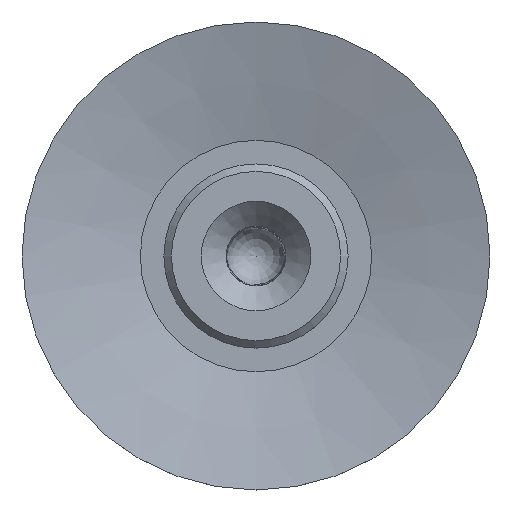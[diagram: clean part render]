
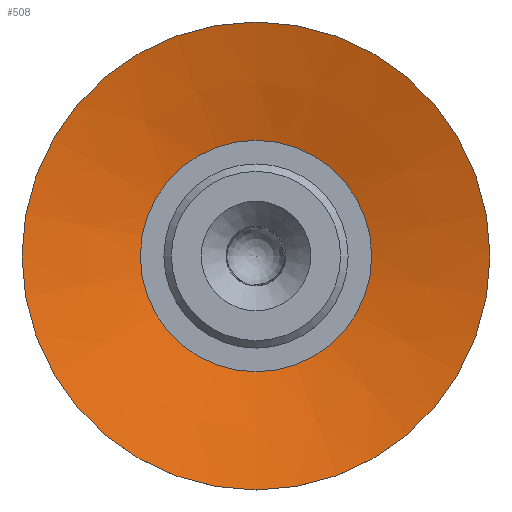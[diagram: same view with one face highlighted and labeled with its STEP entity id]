
A CAD part, top view. The second image highlights one B-rep face of the part: STEP entity #508.
In plain terms, the highlighted conical face has half-angle 75 degrees and reference radius 47 mm.
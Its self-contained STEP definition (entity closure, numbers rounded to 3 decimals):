
#508=ADVANCED_FACE('',(#1137,#1138),#1139,.F.);
#1137=FACE_BOUND('',#2647,.T.);
#1138=FACE_OUTER_BOUND('',#2648,.T.);
#1139=CONICAL_SURFACE('',#2649,47.0,1.309);
#2647=EDGE_LOOP('',(#4003));
#2648=EDGE_LOOP('',(#4004));
#2649=AXIS2_PLACEMENT_3D('',#4005,#4006,#4007);
#4003=ORIENTED_EDGE('',*,*,#5041,.T.);
#4004=ORIENTED_EDGE('',*,*,#5039,.F.);
#4005=CARTESIAN_POINT('',(0.0,0.0,2.517));
#4006=DIRECTION('',(-0.0,0.,1.0));
#4007=DIRECTION('',(0.0,-1.0,0.));
#5039=EDGE_CURVE('',#5760,#5760,#5761,.T.);
#5041=EDGE_CURVE('',#5763,#5763,#5764,.T.);
#5760=VERTEX_POINT('',#6854);
#5761=CIRCLE('',#6855,47.0);
#5763=VERTEX_POINT('',#6857);
#5764=CIRCLE('',#6858,23.237);
#6854=CARTESIAN_POINT('',(0.0,47.0,2.517));
#6855=AXIS2_PLACEMENT_3D('',#7562,#7563,#7564);
#6857=CARTESIAN_POINT('',(0.0,23.237,-3.85));
#6858=AXIS2_PLACEMENT_3D('',#7565,#7566,#7567);
#7562=CARTESIAN_POINT('',(0.0,0.0,2.517));
#7563=DIRECTION('',(-0.0,0.,-1.0));
#7564=DIRECTION('',(0.0,1.0,0.));
#7565=CARTESIAN_POINT('',(0.0,0.0,-3.85));
#7566=DIRECTION('',(-0.0,0.,-1.0));
#7567=DIRECTION('',(0.0,1.0,0.));
